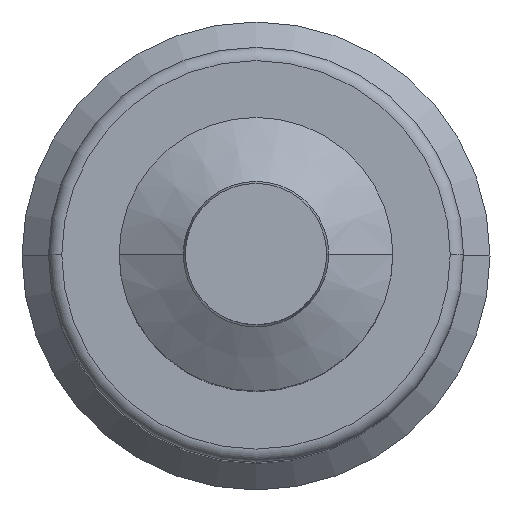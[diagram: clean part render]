
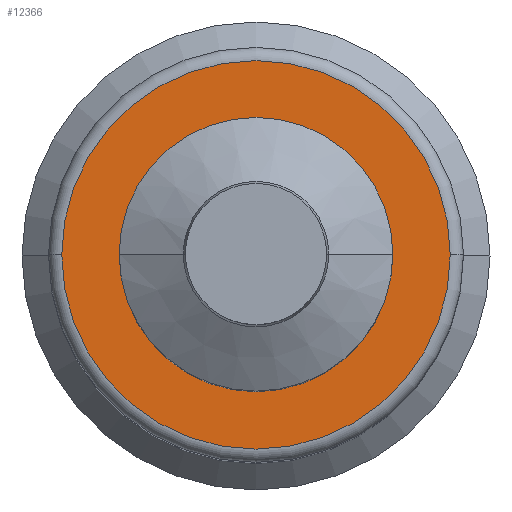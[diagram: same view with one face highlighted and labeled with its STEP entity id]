
A CAD part, top view. The second image highlights one B-rep face of the part: STEP entity #12366.
In plain terms, the highlighted planar face has unit normal (0, 0, 1).
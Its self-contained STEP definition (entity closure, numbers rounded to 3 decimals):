
#437 = AXIS2_PLACEMENT_3D ( 'NONE', #14167, #5220, #15652 ) ;
#991 = DIRECTION ( 'NONE',  ( 0., 0., -1. ) ) ;
#1001 = CIRCLE ( 'NONE', #13844, 31. ) ;
#1138 = VERTEX_POINT ( 'NONE', #6328 ) ;
#1502 = DIRECTION ( 'NONE',  ( 0., 0., 1. ) ) ;
#2261 = EDGE_CURVE ( 'NONE', #14825, #1138, #7535, .T. ) ;
#3005 = VERTEX_POINT ( 'NONE', #17304 ) ;
#5220 = DIRECTION ( 'NONE',  ( 0., 0., 1. ) ) ;
#5934 = DIRECTION ( 'NONE',  ( 0., 0., -1. ) ) ;
#6328 = CARTESIAN_POINT ( 'NONE',  ( 44., 0., 195. ) ) ;
#7058 = AXIS2_PLACEMENT_3D ( 'NONE', #17724, #8798, #19210 ) ;
#7214 = EDGE_CURVE ( 'NONE', #3005, #13022, #15862, .T. ) ;
#7318 = ORIENTED_EDGE ( 'NONE', *, *, #7214, .F. ) ;
#7535 = CIRCLE ( 'NONE', #15359, 44. ) ;
#8798 = DIRECTION ( 'NONE',  ( 0., 0., -1. ) ) ;
#9085 = EDGE_CURVE ( 'NONE', #1138, #14825, #13082, .T. ) ;
#9888 = CARTESIAN_POINT ( 'NONE',  ( 0., 0., 195. ) ) ;
#10418 = CARTESIAN_POINT ( 'NONE',  ( 0., 0., 195. ) ) ;
#11387 = DIRECTION ( 'NONE',  ( 1., 0., 0. ) ) ;
#11716 = PLANE ( 'NONE',  #7058 ) ;
#11909 = DIRECTION ( 'NONE',  ( 1., 0., 0. ) ) ;
#11983 = ORIENTED_EDGE ( 'NONE', *, *, #15807, .F. ) ;
#12366 = ADVANCED_FACE ( 'NONE', ( #14681, #15144 ), #11716, .F. ) ;
#13022 = VERTEX_POINT ( 'NONE', #13280 ) ;
#13082 = CIRCLE ( 'NONE', #17659, 44. ) ;
#13280 = CARTESIAN_POINT ( 'NONE',  ( 31., 0., 195. ) ) ;
#13844 = AXIS2_PLACEMENT_3D ( 'NONE', #10418, #1502, #11909 ) ;
#14167 = CARTESIAN_POINT ( 'NONE',  ( 0., 0., 195. ) ) ;
#14325 = EDGE_LOOP ( 'NONE', ( #15512, #17684 ) ) ;
#14681 = FACE_BOUND ( 'NONE', #18992, .T. ) ;
#14825 = VERTEX_POINT ( 'NONE', #15273 ) ;
#14858 = CARTESIAN_POINT ( 'NONE',  ( 0., 0., 195. ) ) ;
#15144 = FACE_OUTER_BOUND ( 'NONE', #14325, .T. ) ;
#15273 = CARTESIAN_POINT ( 'NONE',  ( -44., 0., 195. ) ) ;
#15359 = AXIS2_PLACEMENT_3D ( 'NONE', #14858, #5934, #16349 ) ;
#15512 = ORIENTED_EDGE ( 'NONE', *, *, #9085, .F. ) ;
#15652 = DIRECTION ( 'NONE',  ( 1., 0., 0. ) ) ;
#15807 = EDGE_CURVE ( 'NONE', #13022, #3005, #1001, .T. ) ;
#15862 = CIRCLE ( 'NONE', #437, 31. ) ;
#16349 = DIRECTION ( 'NONE',  ( 1., 0., 0. ) ) ;
#17304 = CARTESIAN_POINT ( 'NONE',  ( -31., 0., 195. ) ) ;
#17659 = AXIS2_PLACEMENT_3D ( 'NONE', #9888, #991, #11387 ) ;
#17684 = ORIENTED_EDGE ( 'NONE', *, *, #2261, .F. ) ;
#17724 = CARTESIAN_POINT ( 'NONE',  ( 0., 0., 195. ) ) ;
#18992 = EDGE_LOOP ( 'NONE', ( #7318, #11983 ) ) ;
#19210 = DIRECTION ( 'NONE',  ( 1., 0., 0. ) ) ;
